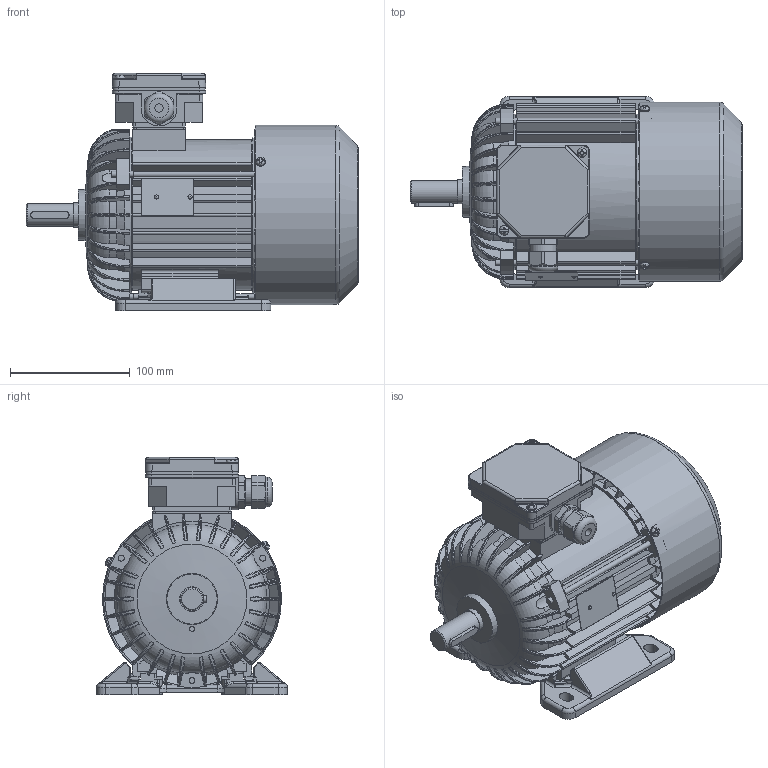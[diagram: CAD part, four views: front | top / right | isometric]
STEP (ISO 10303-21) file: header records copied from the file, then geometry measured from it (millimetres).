
FILE_DESCRIPTION( ( 'Unknown' ), '1' );
FILE_NAME( 'G:/Poczta Tk-1/STP/w.m.80/Sh80/Sh80-.B.stp', 'Unknown', ( 'K. Szlosek' ), ( 'BESEL S.A.' ), 'PSStep 17.0.49', 'Unknown', ' ' );
FILE_SCHEMA( ( 'AUTOMOTIVE_DESIGN { 1 0 10303 214 1 1 1 1 }' ) );
Length unit declared in the file: millimetre
Products named in the file (30): skrznka zaciskowa trójfazowa ; K4-2820 Uszczelka nr 2 Sh71,80; Dławnica M20x1,5; K2-0859 Podstawa skrzynki 6-cio zaciskowej; K2-0860 Pokrywka skrzynki zaciskowej; Assem1; K1-1257 Kadłub S(E,M)h80-A i B; K4-2320 Uszczelka nr 1 Sh71,80; Wkręt samogwintujący M4x16; Wkręt samogwintujący M4x8; K1-0437 Łapa Sh80-.. ; K3-4025 Przewietrznik Sg,h80; K3-6857 Tarcza łożyskowa P S(E,M)h80-B,D; K2-2007 Tarcza łożyskowa N S(E,M)h80-; K3-2964 Osłona przewietrznika Sh80,90; Wpust A6x6x32; Tabliczka znamionowa 32x44; Łożysko 6204; Śruba ściągająca E_M5x130; Nitokołek A 2x6; K3-4616 wał standard Sh80-B
Assembly tree (45 placements, depth 3):
  Assem1
    K1-1257 Kadłub S(E,M)h80-A i B
    K4-2320 Uszczelka nr 1 Sh71,80
    Wkręt samogwintujący M4x16  x2
    Wkręt samogwintujący M4x8  x3
    K1-0437 Łapa Sh80-.. 
    K3-4025 Przewietrznik Sg,h80
    K3-6857 Tarcza łożyskowa P S(E,M)h80-B,D
    K2-2007 Tarcza łożyskowa N S(E,M)h80-
    K3-2964 Osłona przewietrznika Sh80,90
    Wpust A6x6x32
    Tabliczka znamionowa 32x44
    Łożysko 6204  x2
    Łożysko 6204  x2
    Łożysko 6204  x2
    Łożysko 6204  x2
    Łożysko 6204  x2
    Łożysko 6204  x2
    Łożysko 6204  x2
    Łożysko 6204  x2
    Łożysko 6204  x2
    Łożysko 6204  x2
    Śruba ściągająca E_M5x130  x3
    Nitokołek A 2x6  x2
    K3-4616 wał standard Sh80-B
    skrznka zaciskowa trójfazowa 
      K4-2820 Uszczelka nr 2 Sh71,80
      Dławnica M20x1,5
      K2-0859 Podstawa skrzynki 6-cio zaciskowej
      K2-0860 Pokrywka skrzynki zaciskowej
Bounding box: 277.8 x 160 x 198.5 mm (x, y, z)
Volume: 911172.1 mm3; surface area: 558513.5 mm2
Topology: 44 solids, 60 shells, 3075 faces, 8437 edges, 5449 vertices
Faces by surface type: plane 1427, cylinder 963, torus 281, cone 193, bspline 173, sphere 38
Full cylindrical faces by diameter (mm): 2 x2, 2.4 x2, 3.7 x11, 4 x7, 4.2 x3, 4.5 x1, 4.6 x3, 4.8 x4, 5 x7, 5.5 x3, 6.5 x4, 7 x1, 8 x9, 18.376 x1, 18.38 x1, 19 x1, 19.3 x1, 19.5 x1, 19.9 x1, 20 x3, 20.3 x2, 20.4 x4, 22.3 x1, 25 x1, 25.5 x1, 26 x2, 26.1 x1, 27 x1, 28.802 x4, 34 x2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
Entity records: 176270 total; most frequent: CARTESIAN_POINT 80240, ORIENTED_EDGE 15464, DIRECTION 14478, EDGE_CURVE 7732, AXIS2_PLACEMENT_3D 5359, VERTEX_POINT 5127, LINE 3760, VECTOR 3760
